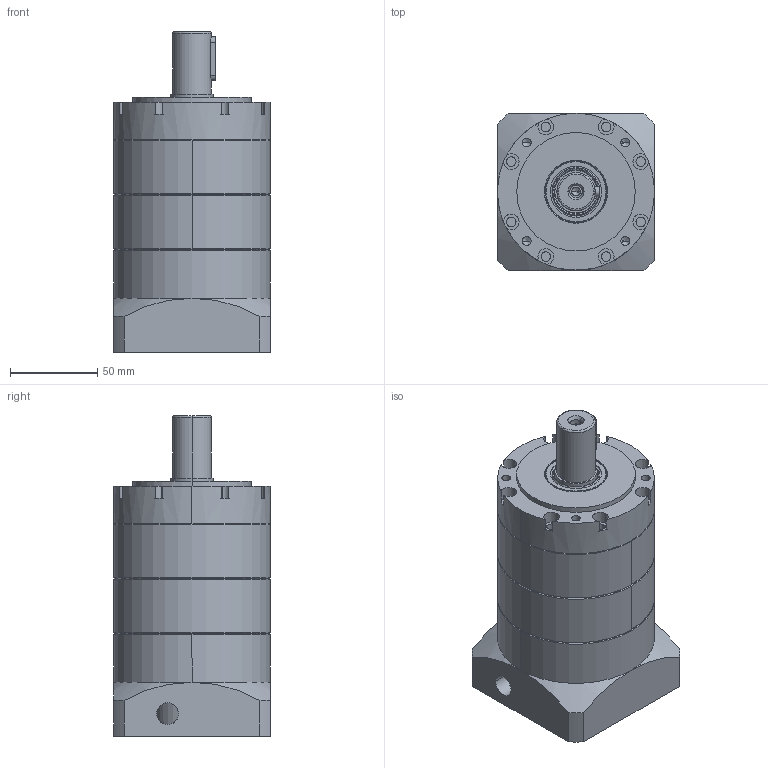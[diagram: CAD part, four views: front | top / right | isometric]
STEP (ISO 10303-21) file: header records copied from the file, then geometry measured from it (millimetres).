
FILE_DESCRIPTION (( 'STEP AP203' ), '1' );
FILE_NAME ('TPG090-L2-19-70-90³öÖá22.STEP', '2024-07-03T07:47:49', ( 'Windows User' ), ( 'P R C' ), 'SwSTEP 2.0', 'SolidWorks 2016', '' );
FILE_SCHEMA (( 'CONFIG_CONTROL_DESIGN' ));
Length unit declared in the file: millimetre
Products named in the file (9): TPG90-帣釱; TPG90-薊粣ん_LZ02-22-B8; TC25-35-7_TC-34.9-55-7; 内六角圆柱头螺钉M6×16; A倰す瑩 6x6x25; TPG090-L2-19-70-90堤粣22; TPG90-奻裔啣-22; GB／T276-94深沟球轴承61907-2Z; TPG90-内齿圈
Assembly tree (9 placements, depth 2):
  TPG090-L2-19-70-90堤粣22
    TPG90-奻裔啣-22
    GB／T276-94深沟球轴承61907-2Z
    TPG90-内齿圈  x2
    TPG90-帣釱
    TPG90-薊粣ん_LZ02-22-B8
    TC25-35-7_TC-34.9-55-7
    内六角圆柱头螺钉M6×16
    A倰す瑩 6x6x25
Bounding box: 90 x 90 x 184 mm (x, y, z)
Volume: 882154.4 mm3; surface area: 148457.3 mm2
Topology: 9 solids, 9 shells, 512 faces, 1387 edges, 888 vertices
Faces by surface type: bspline 190, cylinder 157, plane 115, cone 50
Entity records: 23298 total; most frequent: CARTESIAN_POINT 10788, ORIENTED_EDGE 2682, DIRECTION 2127, EDGE_CURVE 1341, AXIS2_PLACEMENT_3D 927, VERTEX_POINT 870, CIRCLE 607, EDGE_LOOP 591
